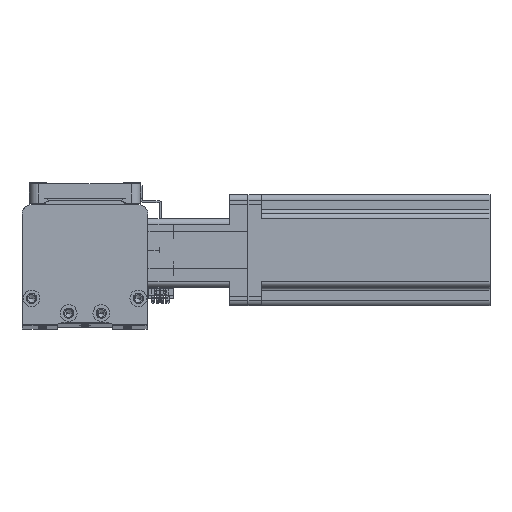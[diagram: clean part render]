
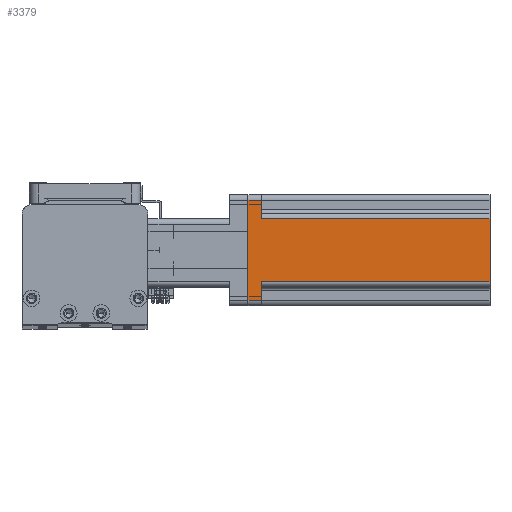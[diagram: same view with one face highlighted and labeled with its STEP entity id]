
A CAD part, top view. The second image highlights one B-rep face of the part: STEP entity #3379.
In plain terms, the highlighted planar face has unit normal (0, 0, 1) as drawn and (1, 0, 0) by its records, which use the part's own axes.
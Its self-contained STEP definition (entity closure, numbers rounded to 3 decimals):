
#249 = EDGE_CURVE ( 'NONE', #34960, #44787, #29676, .T. ) ;
#804 = VECTOR ( 'NONE', #23404, 1000. ) ;
#879 = CARTESIAN_POINT ( 'NONE',  ( 30., -27., 130.7 ) ) ;
#2518 = CARTESIAN_POINT ( 'NONE',  ( 30., 27., 130.7 ) ) ;
#2815 = ORIENTED_EDGE ( 'NONE', *, *, #6181, .T. ) ;
#2939 = VECTOR ( 'NONE', #9596, 1000. ) ;
#3209 = FACE_OUTER_BOUND ( 'NONE', #32746, .T. ) ;
#3379 = ADVANCED_FACE ( 'NONE', ( #3209 ), #8135, .F. ) ;
#4433 = CARTESIAN_POINT ( 'NONE',  ( 30., -17., 130.7 ) ) ;
#4510 = DIRECTION ( 'NONE',  ( 0., 1., 0. ) ) ;
#4615 = VERTEX_POINT ( 'NONE', #21381 ) ;
#4618 = VERTEX_POINT ( 'NONE', #43986 ) ;
#5265 = LINE ( 'NONE', #19504, #44194 ) ;
#5539 = CARTESIAN_POINT ( 'NONE',  ( 30., -27., 0. ) ) ;
#6181 = EDGE_CURVE ( 'NONE', #34431, #34960, #12955, .T. ) ;
#7368 = ORIENTED_EDGE ( 'NONE', *, *, #35112, .T. ) ;
#8135 = PLANE ( 'NONE',  #30322 ) ;
#8614 = VERTEX_POINT ( 'NONE', #15670 ) ;
#9020 = EDGE_CURVE ( 'NONE', #44787, #19940, #39765, .T. ) ;
#9057 = LINE ( 'NONE', #2518, #47977 ) ;
#9070 = CARTESIAN_POINT ( 'NONE',  ( 30., 30., 7.5 ) ) ;
#9296 = ORIENTED_EDGE ( 'NONE', *, *, #20157, .F. ) ;
#9596 = DIRECTION ( 'NONE',  ( 0., -1., 0. ) ) ;
#9748 = CARTESIAN_POINT ( 'NONE',  ( 30., -17., 7.5 ) ) ;
#9860 = VECTOR ( 'NONE', #9877, 1000. ) ;
#9877 = DIRECTION ( 'NONE',  ( 0., 0., 1. ) ) ;
#12054 = DIRECTION ( 'NONE',  ( -1., 0., 0. ) ) ;
#12955 = LINE ( 'NONE', #43534, #2939 ) ;
#14596 = EDGE_CURVE ( 'NONE', #47057, #34431, #27713, .T. ) ;
#15670 = CARTESIAN_POINT ( 'NONE',  ( 30., 17., 130.7 ) ) ;
#17602 = CARTESIAN_POINT ( 'NONE',  ( 30., 17., 130.7 ) ) ;
#18205 = CARTESIAN_POINT ( 'NONE',  ( 30., 27., 0. ) ) ;
#18676 = ORIENTED_EDGE ( 'NONE', *, *, #39460, .F. ) ;
#19504 = CARTESIAN_POINT ( 'NONE',  ( 30., -30., 130.7 ) ) ;
#19940 = VERTEX_POINT ( 'NONE', #18205 ) ;
#20157 = EDGE_CURVE ( 'NONE', #47057, #8614, #5265, .T. ) ;
#21381 = CARTESIAN_POINT ( 'NONE',  ( 30., 27., 7.5 ) ) ;
#21742 = ORIENTED_EDGE ( 'NONE', *, *, #31078, .T. ) ;
#21918 = CARTESIAN_POINT ( 'NONE',  ( 30., -30., 0. ) ) ;
#22336 = ORIENTED_EDGE ( 'NONE', *, *, #9020, .T. ) ;
#23404 = DIRECTION ( 'NONE',  ( 0., 0., -1. ) ) ;
#23991 = CARTESIAN_POINT ( 'NONE',  ( 30., -27., 7.5 ) ) ;
#25262 = ORIENTED_EDGE ( 'NONE', *, *, #14596, .T. ) ;
#26521 = VECTOR ( 'NONE', #33443, 1000. ) ;
#27713 = LINE ( 'NONE', #29641, #26521 ) ;
#29641 = CARTESIAN_POINT ( 'NONE',  ( 30., -17., 7.5 ) ) ;
#29676 = LINE ( 'NONE', #879, #804 ) ;
#29690 = VECTOR ( 'NONE', #36926, 1000. ) ;
#30322 = AXIS2_PLACEMENT_3D ( 'NONE', #34633, #12054, #38437 ) ;
#31078 = EDGE_CURVE ( 'NONE', #19940, #4615, #9057, .T. ) ;
#31618 = DIRECTION ( 'NONE',  ( 0., 1., 0. ) ) ;
#32746 = EDGE_LOOP ( 'NONE', ( #9296, #25262, #2815, #40096, #22336, #21742, #18676, #7368 ) ) ;
#33443 = DIRECTION ( 'NONE',  ( 0., 0., -1. ) ) ;
#34059 = LINE ( 'NONE', #9070, #44117 ) ;
#34431 = VERTEX_POINT ( 'NONE', #9748 ) ;
#34633 = CARTESIAN_POINT ( 'NONE',  ( 30., -30., 130.7 ) ) ;
#34960 = VERTEX_POINT ( 'NONE', #23991 ) ;
#35112 = EDGE_CURVE ( 'NONE', #4618, #8614, #38729, .T. ) ;
#36926 = DIRECTION ( 'NONE',  ( 0., 1., 0. ) ) ;
#38437 = DIRECTION ( 'NONE',  ( 0., 0., 1. ) ) ;
#38729 = LINE ( 'NONE', #17602, #9860 ) ;
#39460 = EDGE_CURVE ( 'NONE', #4618, #4615, #34059, .T. ) ;
#39765 = LINE ( 'NONE', #21918, #29690 ) ;
#40096 = ORIENTED_EDGE ( 'NONE', *, *, #249, .T. ) ;
#43534 = CARTESIAN_POINT ( 'NONE',  ( 30., -30., 7.5 ) ) ;
#43986 = CARTESIAN_POINT ( 'NONE',  ( 30., 17., 7.5 ) ) ;
#44034 = DIRECTION ( 'NONE',  ( 0., 0., 1. ) ) ;
#44117 = VECTOR ( 'NONE', #31618, 1000. ) ;
#44194 = VECTOR ( 'NONE', #4510, 1000. ) ;
#44787 = VERTEX_POINT ( 'NONE', #5539 ) ;
#47057 = VERTEX_POINT ( 'NONE', #4433 ) ;
#47977 = VECTOR ( 'NONE', #44034, 1000. ) ;
